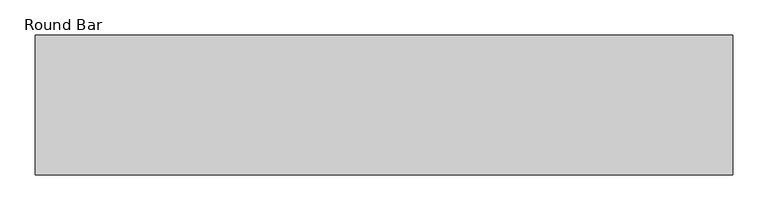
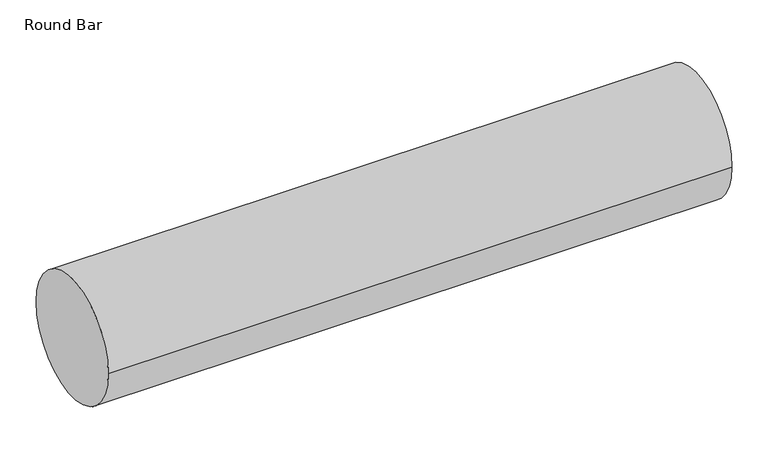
"""IFC4 building model written with IfcOpenShell, lengths in millimetres: beam geometry, Round Bar : Ispuna resetke."""

from ifc_helpers import new_model, si_unit, point, frame, origin, origin_2d, place, context, project, spatial, circle_curve, trimmed, segment, composite_curve, outline, extrude, source, transform, mapped, element, save


def round_bar_4b02da19(model_context):
    return source(origin(), model_context, "Body", "SweptSolid", [
        extrude(outline(composite_curve([segment(trimmed(circle_curve(origin_2d(), 100.0), [point((-100.0, 0.0))], [point((100.0, 0.0))], False, "CARTESIAN"), True, "CONTINUOUS"), segment(trimmed(circle_curve(origin_2d(), 100.0), [point((100.0, 0.0))], [point((-100.0, 0.0))], False, "CARTESIAN"), True, "CONTINUOUS")], self_intersect=False)), frame((-502.0, 0.0, 0.0), z_axis=(1.0, 0.0, 0.0), x_axis=(0.0, 1.0, 0.0)), (0.0, 0.0, 1.0), 997.0),
    ])


if __name__ == "__main__":
    model = new_model("IFC4")
    model_context = context("Model", 3, world=origin())
    ifc_project = project(units=[si_unit("LENGTHUNIT", "METRE", prefix="MILLI")], contexts=[model_context])
    site = spatial("IfcSite", under=ifc_project)
    building = spatial("IfcBuilding", under=site)
    placement = place(None, origin())
    round_bar_shape = round_bar_4b02da19(model_context)
    element("IfcBeam", 1, ObjectType="Round Bar : Ispuna resetke", at=placement, inside=building, context=model_context, shape_type="MappedRepresentation", body=[
        mapped(round_bar_shape, transform((0.0, 0.0, 0.0), x_axis=(1.0, 0.0, 0.0), y_axis=(0.0, 1.0, 0.0), z_axis=(0.0, 0.0, 1.0))),
    ])
    save(model, "model.ifc")
